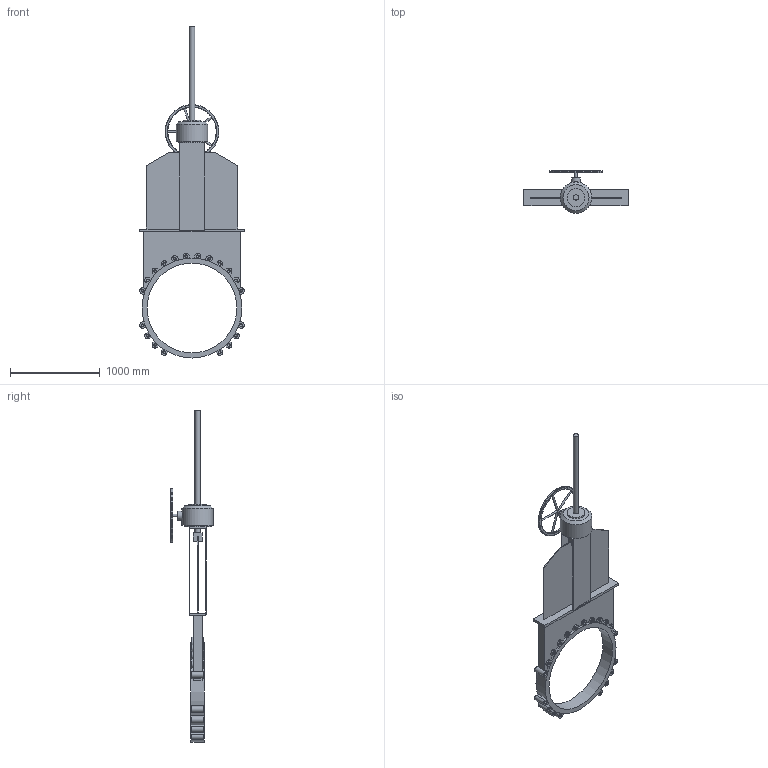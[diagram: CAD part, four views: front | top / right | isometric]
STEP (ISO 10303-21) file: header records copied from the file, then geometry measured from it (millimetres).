
FILE_DESCRIPTION(('STEP AP203'), '1');
FILE_NAME('Çàäâèæêà øèáåðíàÿ K51GV DN1000 ðåäóêòîð+âûäâèæíîé øïèíäåëü', '', ('UNSPECIFIED'), ('UNSPECIFIED'), 'ASCON STEP Converter 1.6', 'ASCON Math Kernel', '');
FILE_SCHEMA(('CONFIG_CONTROL_DESIGN'));
Length unit declared in the file: millimetre
Bounding box: 1164.9 x 475 x 3696 mm (x, y, z)
Volume: 123606829.7 mm3; surface area: 6720170.6 mm2
Topology: 1 solids, 1 shells, 304 faces, 816 edges, 519 vertices
Faces by surface type: plane 160, cylinder 95, cone 41, torus 8
Full cylindrical faces by diameter (mm): 20 x5, 29.211 x40, 30 x1, 60 x2, 100 x1, 200 x1, 300 x1, 350 x1, 600 x1, 1000 x1, 1112 x1
Entity records: 13330 total; most frequent: CARTESIAN_POINT 3787, DIRECTION 1502, ORIENTED_EDGE 1352, EDGE_CURVE 676, AXIS2_PLACEMENT_3D 568, VERTEX_POINT 479, EDGE_LOOP 425, LINE 366
